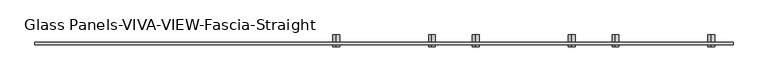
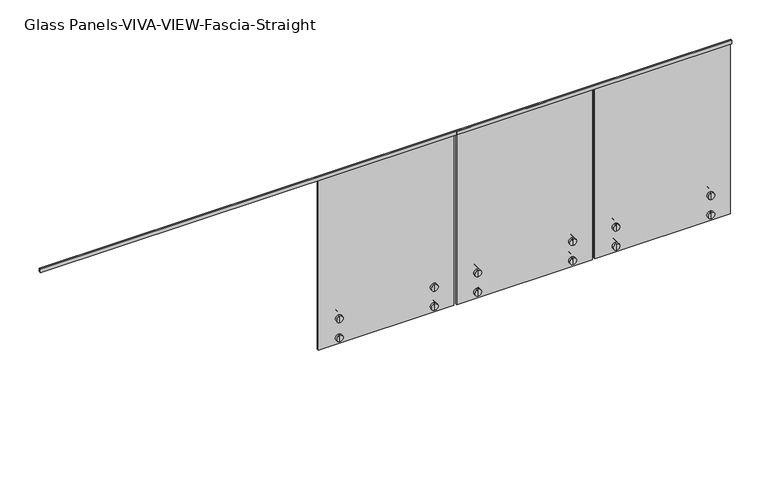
"""IFC4 building model written with IfcOpenShell, lengths in millimetres: railing geometry, Glass Panels-VIVA-VIEW-Fascia-Straight."""

from ifc_helpers import new_model, si_unit, frame, origin, place, context, project, spatial, polyline, circle_curve, outline, extrude, source, transform, mapped, element, save
from ifc_brep_helpers import plane_surface, cylinder_surface, advanced_brep


def glass_panels_viva_view_fascia_straight_ef88a36e(model_context):
    return source(origin(), model_context, "Body", "SolidModel", [
        extrude(outline(polyline([(-2588.6094585, 4140.2), (-2588.6094585, 4114.8), (-2590.1969585, 4114.8), (-2590.1969585, 4138.6125), (-2602.8969585, 4138.6125), (-2602.8969585, 4114.8), (-2604.4844585, 4114.8), (-2604.4844585, 4140.2), (-2588.6094585, 4140.2)])), frame((37756.3266433, 0.0, 0.0), z_axis=(1.0, 0.0, 0.0), x_axis=(0.0, 1.0, 0.0)), (0.0, 0.0, 1.0), 5181.6),
        advanced_brep(
        [(42064.5496899, -2620.3591646, 2794.0), (42064.5496899, -2620.3591646, 2844.8), (42064.5496899, -2620.3591646, 2819.4), (42064.5496899, -2602.8966646, 2794.0), (42064.5496899, -2602.8966646, 2844.8), (42064.5496899, -2602.8966646, 2813.685), (42064.5496899, -2602.8966646, 2825.115), (42064.5496899, -2590.1966646, 2813.685), (42064.5496899, -2590.1966646, 2825.115), (42064.5496899, -2590.1966646, 2794.0), (42064.5496899, -2590.1966646, 2844.8), (42064.5496899, -2533.0468115, 2794.0), (42064.5496899, -2533.0468115, 2844.8), (42064.5496899, -2533.0468115, 2819.4)],
        [
            (0, 1, circle_curve(frame((42064.5496899, -2620.3591646, 2819.4), z_axis=(0.0, -1.0, 0.0), x_axis=(0.0, 0.0, 1.0)), 25.4)),
            (1, 2),
            (2, 0),
            (1, 0, circle_curve(frame((42064.5496899, -2620.3591646, 2819.4), z_axis=(0.0, -1.0, 0.0), x_axis=(0.0, 0.0, 1.0)), 25.4)),
            (3, 4, circle_curve(frame((42064.5496899, -2602.8966646, 2819.4), z_axis=(0.0, -1.0, 0.0), x_axis=(0.0, 0.0, 1.0)), 25.4)),
            (4, 1),
            (0, 3),
            (4, 3, circle_curve(frame((42064.5496899, -2602.8966646, 2819.4), z_axis=(0.0, -1.0, 0.0), x_axis=(0.0, 0.0, 1.0)), 25.4)),
            (5, 6, circle_curve(frame((42064.5496899, -2602.8966646, 2819.4), z_axis=(0.0, -1.0, 0.0), x_axis=(0.0, 0.0, 1.0)), 5.715)),
            (6, 4),
            (3, 5),
            (6, 5, circle_curve(frame((42064.5496899, -2602.8966646, 2819.4), z_axis=(0.0, -1.0, 0.0), x_axis=(0.0, 0.0, 1.0)), 5.715)),
            (7, 8, circle_curve(frame((42064.5496899, -2590.1966646, 2819.4), z_axis=(0.0, -1.0, 0.0), x_axis=(0.0, 0.0, 1.0)), 5.715)),
            (8, 6),
            (5, 7),
            (8, 7, circle_curve(frame((42064.5496899, -2590.1966646, 2819.4), z_axis=(0.0, -1.0, 0.0), x_axis=(0.0, 0.0, 1.0)), 5.715)),
            (9, 10, circle_curve(frame((42064.5496899, -2590.1966646, 2819.4), z_axis=(0.0, -1.0, 0.0), x_axis=(0.0, 0.0, 1.0)), 25.4)),
            (10, 8),
            (7, 9),
            (10, 9, circle_curve(frame((42064.5496899, -2590.1966646, 2819.4), z_axis=(0.0, -1.0, 0.0), x_axis=(0.0, 0.0, 1.0)), 25.4)),
            (11, 12, circle_curve(frame((42064.5496899, -2533.0468115, 2819.4), z_axis=(0.0, -1.0, 0.0), x_axis=(0.0, 0.0, 1.0)), 25.4)),
            (12, 10),
            (9, 11),
            (12, 11, circle_curve(frame((42064.5496899, -2533.0468115, 2819.4), z_axis=(0.0, -1.0, 0.0), x_axis=(0.0, 0.0, 1.0)), 25.4)),
            (13, 12),
            (11, 13),
        ],
        [
            plane_surface(frame((42064.5496899, -2620.3591646, 2819.4), z_axis=(0.0, -1.0, 0.0), x_axis=(0.0, 0.0, 1.0))),
            cylinder_surface(frame((42064.5496899, -2688.6218115, 2819.4), z_axis=(0.0, 1.0, 0.0), x_axis=(0.0, 0.0, 1.0)), 25.4),
            plane_surface(frame((42064.5496899, -2602.8966646, 2819.4), z_axis=(0.0, 1.0, 0.0), x_axis=(0.0, 0.0, 1.0))),
            cylinder_surface(frame((42064.5496899, -2688.6218115, 2819.4), z_axis=(0.0, 1.0, 0.0), x_axis=(0.0, 0.0, 1.0)), 5.715),
            plane_surface(frame((42064.5496899, -2590.1966646, 2819.4), z_axis=(0.0, -1.0, 0.0), x_axis=(0.0, 0.0, 1.0))),
            plane_surface(frame((42064.5496899, -2533.0468115, 2819.4), z_axis=(0.0, 1.0, 0.0), x_axis=(0.0, 0.0, 1.0))),
        ],
        [
            (0, [[1, 2, 3]]),
            (0, [[4, -3, -2]]),
            (1, [[5, 6, -1, 7]]),
            (1, [[8, -7, -4, -6]]),
            (2, [[9, 10, -5, 11]]),
            (2, [[12, -11, -8, -10]]),
            (3, [[13, 14, -9, 15]]),
            (3, [[16, -15, -12, -14]]),
            (4, [[17, 18, -13, 19]]),
            (4, [[20, -19, -16, -18]]),
            (1, [[21, 22, -17, 23]]),
            (1, [[24, -23, -20, -22]]),
            (5, [[25, -21, 26]]),
            (5, [[-26, -24, -25]]),
        ],
    ),
        advanced_brep(
        [(42064.5496899, -2602.8966646, 2966.085), (42064.5496899, -2602.8966646, 2977.515), (42064.5496899, -2602.8966646, 2997.2), (42064.5496899, -2602.8966646, 2946.4), (42064.5496899, -2590.1966646, 2966.085), (42064.5496899, -2590.1966646, 2977.515), (42064.5496899, -2590.1966646, 2946.4), (42064.5496899, -2590.1966646, 2997.2), (42064.5496899, -2533.0468115, 2946.4), (42064.5496899, -2533.0468115, 2997.2), (42064.5496899, -2533.0468115, 2971.8), (42064.5496899, -2620.3591646, 2946.4), (42064.5496899, -2620.3591646, 2997.2), (42064.5496899, -2620.3591646, 2971.8)],
        [
            (0, 1, circle_curve(frame((42064.5496899, -2602.8966646, 2971.8), z_axis=(0.0, -1.0, 0.0), x_axis=(0.0, 0.0, 1.0)), 5.715)),
            (1, 2),
            (2, 3, circle_curve(frame((42064.5496899, -2602.8966646, 2971.8), z_axis=(0.0, 1.0, 0.0), x_axis=(0.0, 0.0, 1.0)), 25.4)),
            (3, 0),
            (1, 0, circle_curve(frame((42064.5496899, -2602.8966646, 2971.8), z_axis=(0.0, -1.0, 0.0), x_axis=(0.0, 0.0, 1.0)), 5.715)),
            (3, 2, circle_curve(frame((42064.5496899, -2602.8966646, 2971.8), z_axis=(0.0, 1.0, 0.0), x_axis=(0.0, 0.0, 1.0)), 25.4)),
            (4, 5, circle_curve(frame((42064.5496899, -2590.1966646, 2971.8), z_axis=(0.0, -1.0, 0.0), x_axis=(0.0, 0.0, 1.0)), 5.715)),
            (5, 1),
            (0, 4),
            (5, 4, circle_curve(frame((42064.5496899, -2590.1966646, 2971.8), z_axis=(0.0, -1.0, 0.0), x_axis=(0.0, 0.0, 1.0)), 5.715)),
            (6, 7, circle_curve(frame((42064.5496899, -2590.1966646, 2971.8), z_axis=(0.0, -1.0, 0.0), x_axis=(0.0, 0.0, 1.0)), 25.4)),
            (7, 5),
            (4, 6),
            (7, 6, circle_curve(frame((42064.5496899, -2590.1966646, 2971.8), z_axis=(0.0, -1.0, 0.0), x_axis=(0.0, 0.0, 1.0)), 25.4)),
            (8, 9, circle_curve(frame((42064.5496899, -2533.0468115, 2971.8), z_axis=(0.0, -1.0, 0.0), x_axis=(0.0, 0.0, 1.0)), 25.4)),
            (9, 7),
            (6, 8),
            (9, 8, circle_curve(frame((42064.5496899, -2533.0468115, 2971.8), z_axis=(0.0, -1.0, 0.0), x_axis=(0.0, 0.0, 1.0)), 25.4)),
            (10, 9),
            (8, 10),
            (11, 12, circle_curve(frame((42064.5496899, -2620.3591646, 2971.8), z_axis=(0.0, -1.0, 0.0), x_axis=(0.0, 0.0, 1.0)), 25.4)),
            (12, 13),
            (13, 11),
            (12, 11, circle_curve(frame((42064.5496899, -2620.3591646, 2971.8), z_axis=(0.0, -1.0, 0.0), x_axis=(0.0, 0.0, 1.0)), 25.4)),
            (2, 12),
            (11, 3),
        ],
        [
            plane_surface(frame((42064.5496899, -2602.8966646, 2971.8), z_axis=(0.0, 1.0, 0.0), x_axis=(0.0, 0.0, 1.0))),
            cylinder_surface(frame((42064.5496899, -2688.6218115, 2971.8), z_axis=(0.0, 1.0, 0.0), x_axis=(0.0, 0.0, 1.0)), 5.715),
            plane_surface(frame((42064.5496899, -2590.1966646, 2971.8), z_axis=(0.0, -1.0, 0.0), x_axis=(0.0, 0.0, 1.0))),
            cylinder_surface(frame((42064.5496899, -2688.6218115, 2971.8), z_axis=(0.0, 1.0, 0.0), x_axis=(0.0, 0.0, 1.0)), 25.4),
            plane_surface(frame((42064.5496899, -2533.0468115, 2971.8), z_axis=(0.0, 1.0, 0.0), x_axis=(0.0, 0.0, 1.0))),
            plane_surface(frame((42064.5496899, -2620.3591646, 2971.8), z_axis=(0.0, -1.0, 0.0), x_axis=(0.0, 0.0, 1.0))),
        ],
        [
            (0, [[1, 2, 3, 4]]),
            (0, [[5, -4, 6, -2]]),
            (1, [[7, 8, -1, 9]]),
            (1, [[10, -9, -5, -8]]),
            (2, [[11, 12, -7, 13]]),
            (2, [[14, -13, -10, -12]]),
            (3, [[15, 16, -11, 17]]),
            (3, [[18, -17, -14, -16]]),
            (4, [[19, -15, 20]]),
            (4, [[-20, -18, -19]]),
            (5, [[21, 22, 23]]),
            (5, [[24, -23, -22]]),
            (3, [[-3, 25, -21, 26]]),
            (3, [[-6, -26, -24, -25]]),
        ],
    ),
        advanced_brep(
        [(42775.7496899, -2620.3591646, 2794.0), (42775.7496899, -2620.3591646, 2844.8), (42775.7496899, -2620.3591646, 2819.4), (42775.7496899, -2602.8966646, 2794.0), (42775.7496899, -2602.8966646, 2844.8), (42775.7496899, -2602.8966646, 2813.685), (42775.7496899, -2602.8966646, 2825.115), (42775.7496899, -2590.1966646, 2813.685), (42775.7496899, -2590.1966646, 2825.115), (42775.7496899, -2590.1966646, 2794.0), (42775.7496899, -2590.1966646, 2844.8), (42775.7496899, -2533.0468115, 2794.0), (42775.7496899, -2533.0468115, 2844.8), (42775.7496899, -2533.0468115, 2819.4)],
        [
            (0, 1, circle_curve(frame((42775.7496899, -2620.3591646, 2819.4), z_axis=(0.0, -1.0, 0.0), x_axis=(0.0, 0.0, 1.0)), 25.4)),
            (1, 2),
            (2, 0),
            (1, 0, circle_curve(frame((42775.7496899, -2620.3591646, 2819.4), z_axis=(0.0, -1.0, 0.0), x_axis=(0.0, 0.0, 1.0)), 25.4)),
            (3, 4, circle_curve(frame((42775.7496899, -2602.8966646, 2819.4), z_axis=(0.0, -1.0, 0.0), x_axis=(0.0, 0.0, 1.0)), 25.4)),
            (4, 1),
            (0, 3),
            (4, 3, circle_curve(frame((42775.7496899, -2602.8966646, 2819.4), z_axis=(0.0, -1.0, 0.0), x_axis=(0.0, 0.0, 1.0)), 25.4)),
            (5, 6, circle_curve(frame((42775.7496899, -2602.8966646, 2819.4), z_axis=(0.0, -1.0, 0.0), x_axis=(0.0, 0.0, 1.0)), 5.715)),
            (6, 4),
            (3, 5),
            (6, 5, circle_curve(frame((42775.7496899, -2602.8966646, 2819.4), z_axis=(0.0, -1.0, 0.0), x_axis=(0.0, 0.0, 1.0)), 5.715)),
            (7, 8, circle_curve(frame((42775.7496899, -2590.1966646, 2819.4), z_axis=(0.0, -1.0, 0.0), x_axis=(0.0, 0.0, 1.0)), 5.715)),
            (8, 6),
            (5, 7),
            (8, 7, circle_curve(frame((42775.7496899, -2590.1966646, 2819.4), z_axis=(0.0, -1.0, 0.0), x_axis=(0.0, 0.0, 1.0)), 5.715)),
            (9, 10, circle_curve(frame((42775.7496899, -2590.1966646, 2819.4), z_axis=(0.0, -1.0, 0.0), x_axis=(0.0, 0.0, 1.0)), 25.4)),
            (10, 8),
            (7, 9),
            (10, 9, circle_curve(frame((42775.7496899, -2590.1966646, 2819.4), z_axis=(0.0, -1.0, 0.0), x_axis=(0.0, 0.0, 1.0)), 25.4)),
            (11, 12, circle_curve(frame((42775.7496899, -2533.0468115, 2819.4), z_axis=(0.0, -1.0, 0.0), x_axis=(0.0, 0.0, 1.0)), 25.4)),
            (12, 10),
            (9, 11),
            (12, 11, circle_curve(frame((42775.7496899, -2533.0468115, 2819.4), z_axis=(0.0, -1.0, 0.0), x_axis=(0.0, 0.0, 1.0)), 25.4)),
            (13, 12),
            (11, 13),
        ],
        [
            plane_surface(frame((42775.7496899, -2620.3591646, 2819.4), z_axis=(0.0, -1.0, 0.0), x_axis=(0.0, 0.0, 1.0))),
            cylinder_surface(frame((42775.7496899, -2688.6218115, 2819.4), z_axis=(0.0, 1.0, 0.0), x_axis=(0.0, 0.0, 1.0)), 25.4),
            plane_surface(frame((42775.7496899, -2602.8966646, 2819.4), z_axis=(0.0, 1.0, 0.0), x_axis=(0.0, 0.0, 1.0))),
            cylinder_surface(frame((42775.7496899, -2688.6218115, 2819.4), z_axis=(0.0, 1.0, 0.0), x_axis=(0.0, 0.0, 1.0)), 5.715),
            plane_surface(frame((42775.7496899, -2590.1966646, 2819.4), z_axis=(0.0, -1.0, 0.0), x_axis=(0.0, 0.0, 1.0))),
            plane_surface(frame((42775.7496899, -2533.0468115, 2819.4), z_axis=(0.0, 1.0, 0.0), x_axis=(0.0, 0.0, 1.0))),
        ],
        [
            (0, [[1, 2, 3]]),
            (0, [[4, -3, -2]]),
            (1, [[5, 6, -1, 7]]),
            (1, [[8, -7, -4, -6]]),
            (2, [[9, 10, -5, 11]]),
            (2, [[12, -11, -8, -10]]),
            (3, [[13, 14, -9, 15]]),
            (3, [[16, -15, -12, -14]]),
            (4, [[17, 18, -13, 19]]),
            (4, [[20, -19, -16, -18]]),
            (1, [[21, 22, -17, 23]]),
            (1, [[24, -23, -20, -22]]),
            (5, [[25, -21, 26]]),
            (5, [[-26, -24, -25]]),
        ],
    ),
        advanced_brep(
        [(42775.7496899, -2602.8966646, 2966.085), (42775.7496899, -2602.8966646, 2977.515), (42775.7496899, -2602.8966646, 2997.2), (42775.7496899, -2602.8966646, 2946.4), (42775.7496899, -2590.1966646, 2966.085), (42775.7496899, -2590.1966646, 2977.515), (42775.7496899, -2590.1966646, 2946.4), (42775.7496899, -2590.1966646, 2997.2), (42775.7496899, -2533.0468115, 2946.4), (42775.7496899, -2533.0468115, 2997.2), (42775.7496899, -2533.0468115, 2971.8), (42775.7496899, -2620.3591646, 2946.4), (42775.7496899, -2620.3591646, 2997.2), (42775.7496899, -2620.3591646, 2971.8)],
        [
            (0, 1, circle_curve(frame((42775.7496899, -2602.8966646, 2971.8), z_axis=(0.0, -1.0, 0.0), x_axis=(0.0, 0.0, 1.0)), 5.715)),
            (1, 2),
            (2, 3, circle_curve(frame((42775.7496899, -2602.8966646, 2971.8), z_axis=(0.0, 1.0, 0.0), x_axis=(0.0, 0.0, 1.0)), 25.4)),
            (3, 0),
            (1, 0, circle_curve(frame((42775.7496899, -2602.8966646, 2971.8), z_axis=(0.0, -1.0, 0.0), x_axis=(0.0, 0.0, 1.0)), 5.715)),
            (3, 2, circle_curve(frame((42775.7496899, -2602.8966646, 2971.8), z_axis=(0.0, 1.0, 0.0), x_axis=(0.0, 0.0, 1.0)), 25.4)),
            (4, 5, circle_curve(frame((42775.7496899, -2590.1966646, 2971.8), z_axis=(0.0, -1.0, 0.0), x_axis=(0.0, 0.0, 1.0)), 5.715)),
            (5, 1),
            (0, 4),
            (5, 4, circle_curve(frame((42775.7496899, -2590.1966646, 2971.8), z_axis=(0.0, -1.0, 0.0), x_axis=(0.0, 0.0, 1.0)), 5.715)),
            (6, 7, circle_curve(frame((42775.7496899, -2590.1966646, 2971.8), z_axis=(0.0, -1.0, 0.0), x_axis=(0.0, 0.0, 1.0)), 25.4)),
            (7, 5),
            (4, 6),
            (7, 6, circle_curve(frame((42775.7496899, -2590.1966646, 2971.8), z_axis=(0.0, -1.0, 0.0), x_axis=(0.0, 0.0, 1.0)), 25.4)),
            (8, 9, circle_curve(frame((42775.7496899, -2533.0468115, 2971.8), z_axis=(0.0, -1.0, 0.0), x_axis=(0.0, 0.0, 1.0)), 25.4)),
            (9, 7),
            (6, 8),
            (9, 8, circle_curve(frame((42775.7496899, -2533.0468115, 2971.8), z_axis=(0.0, -1.0, 0.0), x_axis=(0.0, 0.0, 1.0)), 25.4)),
            (10, 9),
            (8, 10),
            (11, 12, circle_curve(frame((42775.7496899, -2620.3591646, 2971.8), z_axis=(0.0, -1.0, 0.0), x_axis=(0.0, 0.0, 1.0)), 25.4)),
            (12, 13),
            (13, 11),
            (12, 11, circle_curve(frame((42775.7496899, -2620.3591646, 2971.8), z_axis=(0.0, -1.0, 0.0), x_axis=(0.0, 0.0, 1.0)), 25.4)),
            (2, 12),
            (11, 3),
        ],
        [
            plane_surface(frame((42775.7496899, -2602.8966646, 2971.8), z_axis=(0.0, 1.0, 0.0), x_axis=(0.0, 0.0, 1.0))),
            cylinder_surface(frame((42775.7496899, -2688.6218115, 2971.8), z_axis=(0.0, 1.0, 0.0), x_axis=(0.0, 0.0, 1.0)), 5.715),
            plane_surface(frame((42775.7496899, -2590.1966646, 2971.8), z_axis=(0.0, -1.0, 0.0), x_axis=(0.0, 0.0, 1.0))),
            cylinder_surface(frame((42775.7496899, -2688.6218115, 2971.8), z_axis=(0.0, 1.0, 0.0), x_axis=(0.0, 0.0, 1.0)), 25.4),
            plane_surface(frame((42775.7496899, -2533.0468115, 2971.8), z_axis=(0.0, 1.0, 0.0), x_axis=(0.0, 0.0, 1.0))),
            plane_surface(frame((42775.7496899, -2620.3591646, 2971.8), z_axis=(0.0, -1.0, 0.0), x_axis=(0.0, 0.0, 1.0))),
        ],
        [
            (0, [[1, 2, 3, 4]]),
            (0, [[5, -4, 6, -2]]),
            (1, [[7, 8, -1, 9]]),
            (1, [[10, -9, -5, -8]]),
            (2, [[11, 12, -7, 13]]),
            (2, [[14, -13, -10, -12]]),
            (3, [[15, 16, -11, 17]]),
            (3, [[18, -17, -14, -16]]),
            (4, [[19, -15, 20]]),
            (4, [[-20, -18, -19]]),
            (5, [[21, 22, 23]]),
            (5, [[24, -23, -22]]),
            (3, [[-3, 25, -21, 26]]),
            (3, [[-6, -26, -24, -25]]),
        ],
    ),
        extrude(outline(polyline([(41912.1496899, -2590.1969585), (42928.1496899, -2590.1969585), (42928.1496899, -2602.8969585), (41912.1496899, -2602.8969585), (41912.1496899, -2590.1969585)])), frame((0.0, 0.0, 2768.6), z_axis=(0.0, 0.0, 1.0), x_axis=(1.0, 0.0, 0.0)), (0.0, 0.0, 1.0), 1370.0125),
        advanced_brep(
        [(41028.2296899, -2620.3591646, 2794.0), (41028.2296899, -2620.3591646, 2844.8), (41028.2296899, -2620.3591646, 2819.4), (41028.2296899, -2602.8966646, 2794.0), (41028.2296899, -2602.8966646, 2844.8), (41028.2296899, -2602.8966646, 2813.685), (41028.2296899, -2602.8966646, 2825.115), (41028.2296899, -2590.1966646, 2813.685), (41028.2296899, -2590.1966646, 2825.115), (41028.2296899, -2590.1966646, 2794.0), (41028.2296899, -2590.1966646, 2844.8), (41028.2296899, -2533.0468115, 2794.0), (41028.2296899, -2533.0468115, 2844.8), (41028.2296899, -2533.0468115, 2819.4)],
        [
            (0, 1, circle_curve(frame((41028.2296899, -2620.3591646, 2819.4), z_axis=(0.0, -1.0, 0.0), x_axis=(0.0, 0.0, 1.0)), 25.4)),
            (1, 2),
            (2, 0),
            (1, 0, circle_curve(frame((41028.2296899, -2620.3591646, 2819.4), z_axis=(0.0, -1.0, 0.0), x_axis=(0.0, 0.0, 1.0)), 25.4)),
            (3, 4, circle_curve(frame((41028.2296899, -2602.8966646, 2819.4), z_axis=(0.0, -1.0, 0.0), x_axis=(0.0, 0.0, 1.0)), 25.4)),
            (4, 1),
            (0, 3),
            (4, 3, circle_curve(frame((41028.2296899, -2602.8966646, 2819.4), z_axis=(0.0, -1.0, 0.0), x_axis=(0.0, 0.0, 1.0)), 25.4)),
            (5, 6, circle_curve(frame((41028.2296899, -2602.8966646, 2819.4), z_axis=(0.0, -1.0, 0.0), x_axis=(0.0, 0.0, 1.0)), 5.715)),
            (6, 4),
            (3, 5),
            (6, 5, circle_curve(frame((41028.2296899, -2602.8966646, 2819.4), z_axis=(0.0, -1.0, 0.0), x_axis=(0.0, 0.0, 1.0)), 5.715)),
            (7, 8, circle_curve(frame((41028.2296899, -2590.1966646, 2819.4), z_axis=(0.0, -1.0, 0.0), x_axis=(0.0, 0.0, 1.0)), 5.715)),
            (8, 6),
            (5, 7),
            (8, 7, circle_curve(frame((41028.2296899, -2590.1966646, 2819.4), z_axis=(0.0, -1.0, 0.0), x_axis=(0.0, 0.0, 1.0)), 5.715)),
            (9, 10, circle_curve(frame((41028.2296899, -2590.1966646, 2819.4), z_axis=(0.0, -1.0, 0.0), x_axis=(0.0, 0.0, 1.0)), 25.4)),
            (10, 8),
            (7, 9),
            (10, 9, circle_curve(frame((41028.2296899, -2590.1966646, 2819.4), z_axis=(0.0, -1.0, 0.0), x_axis=(0.0, 0.0, 1.0)), 25.4)),
            (11, 12, circle_curve(frame((41028.2296899, -2533.0468115, 2819.4), z_axis=(0.0, -1.0, 0.0), x_axis=(0.0, 0.0, 1.0)), 25.4)),
            (12, 10),
            (9, 11),
            (12, 11, circle_curve(frame((41028.2296899, -2533.0468115, 2819.4), z_axis=(0.0, -1.0, 0.0), x_axis=(0.0, 0.0, 1.0)), 25.4)),
            (13, 12),
            (11, 13),
        ],
        [
            plane_surface(frame((41028.2296899, -2620.3591646, 2819.4), z_axis=(0.0, -1.0, 0.0), x_axis=(0.0, 0.0, 1.0))),
            cylinder_surface(frame((41028.2296899, -2688.6218115, 2819.4), z_axis=(0.0, 1.0, 0.0), x_axis=(0.0, 0.0, 1.0)), 25.4),
            plane_surface(frame((41028.2296899, -2602.8966646, 2819.4), z_axis=(0.0, 1.0, 0.0), x_axis=(0.0, 0.0, 1.0))),
            cylinder_surface(frame((41028.2296899, -2688.6218115, 2819.4), z_axis=(0.0, 1.0, 0.0), x_axis=(0.0, 0.0, 1.0)), 5.715),
            plane_surface(frame((41028.2296899, -2590.1966646, 2819.4), z_axis=(0.0, -1.0, 0.0), x_axis=(0.0, 0.0, 1.0))),
            plane_surface(frame((41028.2296899, -2533.0468115, 2819.4), z_axis=(0.0, 1.0, 0.0), x_axis=(0.0, 0.0, 1.0))),
        ],
        [
            (0, [[1, 2, 3]]),
            (0, [[4, -3, -2]]),
            (1, [[5, 6, -1, 7]]),
            (1, [[8, -7, -4, -6]]),
            (2, [[9, 10, -5, 11]]),
            (2, [[12, -11, -8, -10]]),
            (3, [[13, 14, -9, 15]]),
            (3, [[16, -15, -12, -14]]),
            (4, [[17, 18, -13, 19]]),
            (4, [[20, -19, -16, -18]]),
            (1, [[21, 22, -17, 23]]),
            (1, [[24, -23, -20, -22]]),
            (5, [[25, -21, 26]]),
            (5, [[-26, -24, -25]]),
        ],
    ),
        advanced_brep(
        [(41028.2296899, -2602.8966646, 2966.085), (41028.2296899, -2602.8966646, 2977.515), (41028.2296899, -2602.8966646, 2997.2), (41028.2296899, -2602.8966646, 2946.4), (41028.2296899, -2590.1966646, 2966.085), (41028.2296899, -2590.1966646, 2977.515), (41028.2296899, -2590.1966646, 2946.4), (41028.2296899, -2590.1966646, 2997.2), (41028.2296899, -2533.0468115, 2946.4), (41028.2296899, -2533.0468115, 2997.2), (41028.2296899, -2533.0468115, 2971.8), (41028.2296899, -2620.3591646, 2946.4), (41028.2296899, -2620.3591646, 2997.2), (41028.2296899, -2620.3591646, 2971.8)],
        [
            (0, 1, circle_curve(frame((41028.2296899, -2602.8966646, 2971.8), z_axis=(0.0, -1.0, 0.0), x_axis=(0.0, 0.0, 1.0)), 5.715)),
            (1, 2),
            (2, 3, circle_curve(frame((41028.2296899, -2602.8966646, 2971.8), z_axis=(0.0, 1.0, 0.0), x_axis=(0.0, 0.0, 1.0)), 25.4)),
            (3, 0),
            (1, 0, circle_curve(frame((41028.2296899, -2602.8966646, 2971.8), z_axis=(0.0, -1.0, 0.0), x_axis=(0.0, 0.0, 1.0)), 5.715)),
            (3, 2, circle_curve(frame((41028.2296899, -2602.8966646, 2971.8), z_axis=(0.0, 1.0, 0.0), x_axis=(0.0, 0.0, 1.0)), 25.4)),
            (4, 5, circle_curve(frame((41028.2296899, -2590.1966646, 2971.8), z_axis=(0.0, -1.0, 0.0), x_axis=(0.0, 0.0, 1.0)), 5.715)),
            (5, 1),
            (0, 4),
            (5, 4, circle_curve(frame((41028.2296899, -2590.1966646, 2971.8), z_axis=(0.0, -1.0, 0.0), x_axis=(0.0, 0.0, 1.0)), 5.715)),
            (6, 7, circle_curve(frame((41028.2296899, -2590.1966646, 2971.8), z_axis=(0.0, -1.0, 0.0), x_axis=(0.0, 0.0, 1.0)), 25.4)),
            (7, 5),
            (4, 6),
            (7, 6, circle_curve(frame((41028.2296899, -2590.1966646, 2971.8), z_axis=(0.0, -1.0, 0.0), x_axis=(0.0, 0.0, 1.0)), 25.4)),
            (8, 9, circle_curve(frame((41028.2296899, -2533.0468115, 2971.8), z_axis=(0.0, -1.0, 0.0), x_axis=(0.0, 0.0, 1.0)), 25.4)),
            (9, 7),
            (6, 8),
            (9, 8, circle_curve(frame((41028.2296899, -2533.0468115, 2971.8), z_axis=(0.0, -1.0, 0.0), x_axis=(0.0, 0.0, 1.0)), 25.4)),
            (10, 9),
            (8, 10),
            (11, 12, circle_curve(frame((41028.2296899, -2620.3591646, 2971.8), z_axis=(0.0, -1.0, 0.0), x_axis=(0.0, 0.0, 1.0)), 25.4)),
            (12, 13),
            (13, 11),
            (12, 11, circle_curve(frame((41028.2296899, -2620.3591646, 2971.8), z_axis=(0.0, -1.0, 0.0), x_axis=(0.0, 0.0, 1.0)), 25.4)),
            (2, 12),
            (11, 3),
        ],
        [
            plane_surface(frame((41028.2296899, -2602.8966646, 2971.8), z_axis=(0.0, 1.0, 0.0), x_axis=(0.0, 0.0, 1.0))),
            cylinder_surface(frame((41028.2296899, -2688.6218115, 2971.8), z_axis=(0.0, 1.0, 0.0), x_axis=(0.0, 0.0, 1.0)), 5.715),
            plane_surface(frame((41028.2296899, -2590.1966646, 2971.8), z_axis=(0.0, -1.0, 0.0), x_axis=(0.0, 0.0, 1.0))),
            cylinder_surface(frame((41028.2296899, -2688.6218115, 2971.8), z_axis=(0.0, 1.0, 0.0), x_axis=(0.0, 0.0, 1.0)), 25.4),
            plane_surface(frame((41028.2296899, -2533.0468115, 2971.8), z_axis=(0.0, 1.0, 0.0), x_axis=(0.0, 0.0, 1.0))),
            plane_surface(frame((41028.2296899, -2620.3591646, 2971.8), z_axis=(0.0, -1.0, 0.0), x_axis=(0.0, 0.0, 1.0))),
        ],
        [
            (0, [[1, 2, 3, 4]]),
            (0, [[5, -4, 6, -2]]),
            (1, [[7, 8, -1, 9]]),
            (1, [[10, -9, -5, -8]]),
            (2, [[11, 12, -7, 13]]),
            (2, [[14, -13, -10, -12]]),
            (3, [[15, 16, -11, 17]]),
            (3, [[18, -17, -14, -16]]),
            (4, [[19, -15, 20]]),
            (4, [[-20, -18, -19]]),
            (5, [[21, 22, 23]]),
            (5, [[24, -23, -22]]),
            (3, [[-3, 25, -21, 26]]),
            (3, [[-6, -26, -24, -25]]),
        ],
    ),
        advanced_brep(
        [(41739.4296899, -2620.3591646, 2794.0), (41739.4296899, -2620.3591646, 2844.8), (41739.4296899, -2620.3591646, 2819.4), (41739.4296899, -2602.8966646, 2794.0), (41739.4296899, -2602.8966646, 2844.8), (41739.4296899, -2602.8966646, 2813.685), (41739.4296899, -2602.8966646, 2825.115), (41739.4296899, -2590.1966646, 2813.685), (41739.4296899, -2590.1966646, 2825.115), (41739.4296899, -2590.1966646, 2794.0), (41739.4296899, -2590.1966646, 2844.8), (41739.4296899, -2533.0468115, 2794.0), (41739.4296899, -2533.0468115, 2844.8), (41739.4296899, -2533.0468115, 2819.4)],
        [
            (0, 1, circle_curve(frame((41739.4296899, -2620.3591646, 2819.4), z_axis=(0.0, -1.0, 0.0), x_axis=(0.0, 0.0, 1.0)), 25.4)),
            (1, 2),
            (2, 0),
            (1, 0, circle_curve(frame((41739.4296899, -2620.3591646, 2819.4), z_axis=(0.0, -1.0, 0.0), x_axis=(0.0, 0.0, 1.0)), 25.4)),
            (3, 4, circle_curve(frame((41739.4296899, -2602.8966646, 2819.4), z_axis=(0.0, -1.0, 0.0), x_axis=(0.0, 0.0, 1.0)), 25.4)),
            (4, 1),
            (0, 3),
            (4, 3, circle_curve(frame((41739.4296899, -2602.8966646, 2819.4), z_axis=(0.0, -1.0, 0.0), x_axis=(0.0, 0.0, 1.0)), 25.4)),
            (5, 6, circle_curve(frame((41739.4296899, -2602.8966646, 2819.4), z_axis=(0.0, -1.0, 0.0), x_axis=(0.0, 0.0, 1.0)), 5.715)),
            (6, 4),
            (3, 5),
            (6, 5, circle_curve(frame((41739.4296899, -2602.8966646, 2819.4), z_axis=(0.0, -1.0, 0.0), x_axis=(0.0, 0.0, 1.0)), 5.715)),
            (7, 8, circle_curve(frame((41739.4296899, -2590.1966646, 2819.4), z_axis=(0.0, -1.0, 0.0), x_axis=(0.0, 0.0, 1.0)), 5.715)),
            (8, 6),
            (5, 7),
            (8, 7, circle_curve(frame((41739.4296899, -2590.1966646, 2819.4), z_axis=(0.0, -1.0, 0.0), x_axis=(0.0, 0.0, 1.0)), 5.715)),
            (9, 10, circle_curve(frame((41739.4296899, -2590.1966646, 2819.4), z_axis=(0.0, -1.0, 0.0), x_axis=(0.0, 0.0, 1.0)), 25.4)),
            (10, 8),
            (7, 9),
            (10, 9, circle_curve(frame((41739.4296899, -2590.1966646, 2819.4), z_axis=(0.0, -1.0, 0.0), x_axis=(0.0, 0.0, 1.0)), 25.4)),
            (11, 12, circle_curve(frame((41739.4296899, -2533.0468115, 2819.4), z_axis=(0.0, -1.0, 0.0), x_axis=(0.0, 0.0, 1.0)), 25.4)),
            (12, 10),
            (9, 11),
            (12, 11, circle_curve(frame((41739.4296899, -2533.0468115, 2819.4), z_axis=(0.0, -1.0, 0.0), x_axis=(0.0, 0.0, 1.0)), 25.4)),
            (13, 12),
            (11, 13),
        ],
        [
            plane_surface(frame((41739.4296899, -2620.3591646, 2819.4), z_axis=(0.0, -1.0, 0.0), x_axis=(0.0, 0.0, 1.0))),
            cylinder_surface(frame((41739.4296899, -2688.6218115, 2819.4), z_axis=(0.0, 1.0, 0.0), x_axis=(0.0, 0.0, 1.0)), 25.4),
            plane_surface(frame((41739.4296899, -2602.8966646, 2819.4), z_axis=(0.0, 1.0, 0.0), x_axis=(0.0, 0.0, 1.0))),
            cylinder_surface(frame((41739.4296899, -2688.6218115, 2819.4), z_axis=(0.0, 1.0, 0.0), x_axis=(0.0, 0.0, 1.0)), 5.715),
            plane_surface(frame((41739.4296899, -2590.1966646, 2819.4), z_axis=(0.0, -1.0, 0.0), x_axis=(0.0, 0.0, 1.0))),
            plane_surface(frame((41739.4296899, -2533.0468115, 2819.4), z_axis=(0.0, 1.0, 0.0), x_axis=(0.0, 0.0, 1.0))),
        ],
        [
            (0, [[1, 2, 3]]),
            (0, [[4, -3, -2]]),
            (1, [[5, 6, -1, 7]]),
            (1, [[8, -7, -4, -6]]),
            (2, [[9, 10, -5, 11]]),
            (2, [[12, -11, -8, -10]]),
            (3, [[13, 14, -9, 15]]),
            (3, [[16, -15, -12, -14]]),
            (4, [[17, 18, -13, 19]]),
            (4, [[20, -19, -16, -18]]),
            (1, [[21, 22, -17, 23]]),
            (1, [[24, -23, -20, -22]]),
            (5, [[25, -21, 26]]),
            (5, [[-26, -24, -25]]),
        ],
    ),
        advanced_brep(
        [(41739.4296899, -2602.8966646, 2966.085), (41739.4296899, -2602.8966646, 2977.515), (41739.4296899, -2602.8966646, 2997.2), (41739.4296899, -2602.8966646, 2946.4), (41739.4296899, -2590.1966646, 2966.085), (41739.4296899, -2590.1966646, 2977.515), (41739.4296899, -2590.1966646, 2946.4), (41739.4296899, -2590.1966646, 2997.2), (41739.4296899, -2533.0468115, 2946.4), (41739.4296899, -2533.0468115, 2997.2), (41739.4296899, -2533.0468115, 2971.8), (41739.4296899, -2620.3591646, 2946.4), (41739.4296899, -2620.3591646, 2997.2), (41739.4296899, -2620.3591646, 2971.8)],
        [
            (0, 1, circle_curve(frame((41739.4296899, -2602.8966646, 2971.8), z_axis=(0.0, -1.0, 0.0), x_axis=(0.0, 0.0, 1.0)), 5.715)),
            (1, 2),
            (2, 3, circle_curve(frame((41739.4296899, -2602.8966646, 2971.8), z_axis=(0.0, 1.0, 0.0), x_axis=(0.0, 0.0, 1.0)), 25.4)),
            (3, 0),
            (1, 0, circle_curve(frame((41739.4296899, -2602.8966646, 2971.8), z_axis=(0.0, -1.0, 0.0), x_axis=(0.0, 0.0, 1.0)), 5.715)),
            (3, 2, circle_curve(frame((41739.4296899, -2602.8966646, 2971.8), z_axis=(0.0, 1.0, 0.0), x_axis=(0.0, 0.0, 1.0)), 25.4)),
            (4, 5, circle_curve(frame((41739.4296899, -2590.1966646, 2971.8), z_axis=(0.0, -1.0, 0.0), x_axis=(0.0, 0.0, 1.0)), 5.715)),
            (5, 1),
            (0, 4),
            (5, 4, circle_curve(frame((41739.4296899, -2590.1966646, 2971.8), z_axis=(0.0, -1.0, 0.0), x_axis=(0.0, 0.0, 1.0)), 5.715)),
            (6, 7, circle_curve(frame((41739.4296899, -2590.1966646, 2971.8), z_axis=(0.0, -1.0, 0.0), x_axis=(0.0, 0.0, 1.0)), 25.4)),
            (7, 5),
            (4, 6),
            (7, 6, circle_curve(frame((41739.4296899, -2590.1966646, 2971.8), z_axis=(0.0, -1.0, 0.0), x_axis=(0.0, 0.0, 1.0)), 25.4)),
            (8, 9, circle_curve(frame((41739.4296899, -2533.0468115, 2971.8), z_axis=(0.0, -1.0, 0.0), x_axis=(0.0, 0.0, 1.0)), 25.4)),
            (9, 7),
            (6, 8),
            (9, 8, circle_curve(frame((41739.4296899, -2533.0468115, 2971.8), z_axis=(0.0, -1.0, 0.0), x_axis=(0.0, 0.0, 1.0)), 25.4)),
            (10, 9),
            (8, 10),
            (11, 12, circle_curve(frame((41739.4296899, -2620.3591646, 2971.8), z_axis=(0.0, -1.0, 0.0), x_axis=(0.0, 0.0, 1.0)), 25.4)),
            (12, 13),
            (13, 11),
            (12, 11, circle_curve(frame((41739.4296899, -2620.3591646, 2971.8), z_axis=(0.0, -1.0, 0.0), x_axis=(0.0, 0.0, 1.0)), 25.4)),
            (2, 12),
            (11, 3),
        ],
        [
            plane_surface(frame((41739.4296899, -2602.8966646, 2971.8), z_axis=(0.0, 1.0, 0.0), x_axis=(0.0, 0.0, 1.0))),
            cylinder_surface(frame((41739.4296899, -2688.6218115, 2971.8), z_axis=(0.0, 1.0, 0.0), x_axis=(0.0, 0.0, 1.0)), 5.715),
            plane_surface(frame((41739.4296899, -2590.1966646, 2971.8), z_axis=(0.0, -1.0, 0.0), x_axis=(0.0, 0.0, 1.0))),
            cylinder_surface(frame((41739.4296899, -2688.6218115, 2971.8), z_axis=(0.0, 1.0, 0.0), x_axis=(0.0, 0.0, 1.0)), 25.4),
            plane_surface(frame((41739.4296899, -2533.0468115, 2971.8), z_axis=(0.0, 1.0, 0.0), x_axis=(0.0, 0.0, 1.0))),
            plane_surface(frame((41739.4296899, -2620.3591646, 2971.8), z_axis=(0.0, -1.0, 0.0), x_axis=(0.0, 0.0, 1.0))),
        ],
        [
            (0, [[1, 2, 3, 4]]),
            (0, [[5, -4, 6, -2]]),
            (1, [[7, 8, -1, 9]]),
            (1, [[10, -9, -5, -8]]),
            (2, [[11, 12, -7, 13]]),
            (2, [[14, -13, -10, -12]]),
            (3, [[15, 16, -11, 17]]),
            (3, [[18, -17, -14, -16]]),
            (4, [[19, -15, 20]]),
            (4, [[-20, -18, -19]]),
            (5, [[21, 22, 23]]),
            (5, [[24, -23, -22]]),
            (3, [[-3, 25, -21, 26]]),
            (3, [[-6, -26, -24, -25]]),
        ],
    ),
        extrude(outline(polyline([(40875.8296899, -2590.1969585), (41891.8296899, -2590.1969585), (41891.8296899, -2602.8969585), (40875.8296899, -2602.8969585), (40875.8296899, -2590.1969585)])), frame((0.0, 0.0, 2768.6), z_axis=(0.0, 0.0, 1.0), x_axis=(1.0, 0.0, 0.0)), (0.0, 0.0, 1.0), 1370.0125),
        advanced_brep(
        [(39991.9096899, -2620.3591646, 2794.0), (39991.9096899, -2620.3591646, 2844.8), (39991.9096899, -2620.3591646, 2819.4), (39991.9096899, -2602.8966646, 2794.0), (39991.9096899, -2602.8966646, 2844.8), (39991.9096899, -2602.8966646, 2813.685), (39991.9096899, -2602.8966646, 2825.115), (39991.9096899, -2590.1966646, 2813.685), (39991.9096899, -2590.1966646, 2825.115), (39991.9096899, -2590.1966646, 2794.0), (39991.9096899, -2590.1966646, 2844.8), (39991.9096899, -2533.0468115, 2794.0), (39991.9096899, -2533.0468115, 2844.8), (39991.9096899, -2533.0468115, 2819.4)],
        [
            (0, 1, circle_curve(frame((39991.9096899, -2620.3591646, 2819.4), z_axis=(0.0, -1.0, 0.0), x_axis=(0.0, 0.0, 1.0)), 25.4)),
            (1, 2),
            (2, 0),
            (1, 0, circle_curve(frame((39991.9096899, -2620.3591646, 2819.4), z_axis=(0.0, -1.0, 0.0), x_axis=(0.0, 0.0, 1.0)), 25.4)),
            (3, 4, circle_curve(frame((39991.9096899, -2602.8966646, 2819.4), z_axis=(0.0, -1.0, 0.0), x_axis=(0.0, 0.0, 1.0)), 25.4)),
            (4, 1),
            (0, 3),
            (4, 3, circle_curve(frame((39991.9096899, -2602.8966646, 2819.4), z_axis=(0.0, -1.0, 0.0), x_axis=(0.0, 0.0, 1.0)), 25.4)),
            (5, 6, circle_curve(frame((39991.9096899, -2602.8966646, 2819.4), z_axis=(0.0, -1.0, 0.0), x_axis=(0.0, 0.0, 1.0)), 5.715)),
            (6, 4),
            (3, 5),
            (6, 5, circle_curve(frame((39991.9096899, -2602.8966646, 2819.4), z_axis=(0.0, -1.0, 0.0), x_axis=(0.0, 0.0, 1.0)), 5.715)),
            (7, 8, circle_curve(frame((39991.9096899, -2590.1966646, 2819.4), z_axis=(0.0, -1.0, 0.0), x_axis=(0.0, 0.0, 1.0)), 5.715)),
            (8, 6),
            (5, 7),
            (8, 7, circle_curve(frame((39991.9096899, -2590.1966646, 2819.4), z_axis=(0.0, -1.0, 0.0), x_axis=(0.0, 0.0, 1.0)), 5.715)),
            (9, 10, circle_curve(frame((39991.9096899, -2590.1966646, 2819.4), z_axis=(0.0, -1.0, 0.0), x_axis=(0.0, 0.0, 1.0)), 25.4)),
            (10, 8),
            (7, 9),
            (10, 9, circle_curve(frame((39991.9096899, -2590.1966646, 2819.4), z_axis=(0.0, -1.0, 0.0), x_axis=(0.0, 0.0, 1.0)), 25.4)),
            (11, 12, circle_curve(frame((39991.9096899, -2533.0468115, 2819.4), z_axis=(0.0, -1.0, 0.0), x_axis=(0.0, 0.0, 1.0)), 25.4)),
            (12, 10),
            (9, 11),
            (12, 11, circle_curve(frame((39991.9096899, -2533.0468115, 2819.4), z_axis=(0.0, -1.0, 0.0), x_axis=(0.0, 0.0, 1.0)), 25.4)),
            (13, 12),
            (11, 13),
        ],
        [
            plane_surface(frame((39991.9096899, -2620.3591646, 2819.4), z_axis=(0.0, -1.0, 0.0), x_axis=(0.0, 0.0, 1.0))),
            cylinder_surface(frame((39991.9096899, -2688.6218115, 2819.4), z_axis=(0.0, 1.0, 0.0), x_axis=(0.0, 0.0, 1.0)), 25.4),
            plane_surface(frame((39991.9096899, -2602.8966646, 2819.4), z_axis=(0.0, 1.0, 0.0), x_axis=(0.0, 0.0, 1.0))),
            cylinder_surface(frame((39991.9096899, -2688.6218115, 2819.4), z_axis=(0.0, 1.0, 0.0), x_axis=(0.0, 0.0, 1.0)), 5.715),
            plane_surface(frame((39991.9096899, -2590.1966646, 2819.4), z_axis=(0.0, -1.0, 0.0), x_axis=(0.0, 0.0, 1.0))),
            plane_surface(frame((39991.9096899, -2533.0468115, 2819.4), z_axis=(0.0, 1.0, 0.0), x_axis=(0.0, 0.0, 1.0))),
        ],
        [
            (0, [[1, 2, 3]]),
            (0, [[4, -3, -2]]),
            (1, [[5, 6, -1, 7]]),
            (1, [[8, -7, -4, -6]]),
            (2, [[9, 10, -5, 11]]),
            (2, [[12, -11, -8, -10]]),
            (3, [[13, 14, -9, 15]]),
            (3, [[16, -15, -12, -14]]),
            (4, [[17, 18, -13, 19]]),
            (4, [[20, -19, -16, -18]]),
            (1, [[21, 22, -17, 23]]),
            (1, [[24, -23, -20, -22]]),
            (5, [[25, -21, 26]]),
            (5, [[-26, -24, -25]]),
        ],
    ),
        advanced_brep(
        [(39991.9096899, -2602.8966646, 2966.085), (39991.9096899, -2602.8966646, 2977.515), (39991.9096899, -2602.8966646, 2997.2), (39991.9096899, -2602.8966646, 2946.4), (39991.9096899, -2590.1966646, 2966.085), (39991.9096899, -2590.1966646, 2977.515), (39991.9096899, -2590.1966646, 2946.4), (39991.9096899, -2590.1966646, 2997.2), (39991.9096899, -2533.0468115, 2946.4), (39991.9096899, -2533.0468115, 2997.2), (39991.9096899, -2533.0468115, 2971.8), (39991.9096899, -2620.3591646, 2946.4), (39991.9096899, -2620.3591646, 2997.2), (39991.9096899, -2620.3591646, 2971.8)],
        [
            (0, 1, circle_curve(frame((39991.9096899, -2602.8966646, 2971.8), z_axis=(0.0, -1.0, 0.0), x_axis=(0.0, 0.0, 1.0)), 5.715)),
            (1, 2),
            (2, 3, circle_curve(frame((39991.9096899, -2602.8966646, 2971.8), z_axis=(0.0, 1.0, 0.0), x_axis=(0.0, 0.0, 1.0)), 25.4)),
            (3, 0),
            (1, 0, circle_curve(frame((39991.9096899, -2602.8966646, 2971.8), z_axis=(0.0, -1.0, 0.0), x_axis=(0.0, 0.0, 1.0)), 5.715)),
            (3, 2, circle_curve(frame((39991.9096899, -2602.8966646, 2971.8), z_axis=(0.0, 1.0, 0.0), x_axis=(0.0, 0.0, 1.0)), 25.4)),
            (4, 5, circle_curve(frame((39991.9096899, -2590.1966646, 2971.8), z_axis=(0.0, -1.0, 0.0), x_axis=(0.0, 0.0, 1.0)), 5.715)),
            (5, 1),
            (0, 4),
            (5, 4, circle_curve(frame((39991.9096899, -2590.1966646, 2971.8), z_axis=(0.0, -1.0, 0.0), x_axis=(0.0, 0.0, 1.0)), 5.715)),
            (6, 7, circle_curve(frame((39991.9096899, -2590.1966646, 2971.8), z_axis=(0.0, -1.0, 0.0), x_axis=(0.0, 0.0, 1.0)), 25.4)),
            (7, 5),
            (4, 6),
            (7, 6, circle_curve(frame((39991.9096899, -2590.1966646, 2971.8), z_axis=(0.0, -1.0, 0.0), x_axis=(0.0, 0.0, 1.0)), 25.4)),
            (8, 9, circle_curve(frame((39991.9096899, -2533.0468115, 2971.8), z_axis=(0.0, -1.0, 0.0), x_axis=(0.0, 0.0, 1.0)), 25.4)),
            (9, 7),
            (6, 8),
            (9, 8, circle_curve(frame((39991.9096899, -2533.0468115, 2971.8), z_axis=(0.0, -1.0, 0.0), x_axis=(0.0, 0.0, 1.0)), 25.4)),
            (10, 9),
            (8, 10),
            (11, 12, circle_curve(frame((39991.9096899, -2620.3591646, 2971.8), z_axis=(0.0, -1.0, 0.0), x_axis=(0.0, 0.0, 1.0)), 25.4)),
            (12, 13),
            (13, 11),
            (12, 11, circle_curve(frame((39991.9096899, -2620.3591646, 2971.8), z_axis=(0.0, -1.0, 0.0), x_axis=(0.0, 0.0, 1.0)), 25.4)),
            (2, 12),
            (11, 3),
        ],
        [
            plane_surface(frame((39991.9096899, -2602.8966646, 2971.8), z_axis=(0.0, 1.0, 0.0), x_axis=(0.0, 0.0, 1.0))),
            cylinder_surface(frame((39991.9096899, -2688.6218115, 2971.8), z_axis=(0.0, 1.0, 0.0), x_axis=(0.0, 0.0, 1.0)), 5.715),
            plane_surface(frame((39991.9096899, -2590.1966646, 2971.8), z_axis=(0.0, -1.0, 0.0), x_axis=(0.0, 0.0, 1.0))),
            cylinder_surface(frame((39991.9096899, -2688.6218115, 2971.8), z_axis=(0.0, 1.0, 0.0), x_axis=(0.0, 0.0, 1.0)), 25.4),
            plane_surface(frame((39991.9096899, -2533.0468115, 2971.8), z_axis=(0.0, 1.0, 0.0), x_axis=(0.0, 0.0, 1.0))),
            plane_surface(frame((39991.9096899, -2620.3591646, 2971.8), z_axis=(0.0, -1.0, 0.0), x_axis=(0.0, 0.0, 1.0))),
        ],
        [
            (0, [[1, 2, 3, 4]]),
            (0, [[5, -4, 6, -2]]),
            (1, [[7, 8, -1, 9]]),
            (1, [[10, -9, -5, -8]]),
            (2, [[11, 12, -7, 13]]),
            (2, [[14, -13, -10, -12]]),
            (3, [[15, 16, -11, 17]]),
            (3, [[18, -17, -14, -16]]),
            (4, [[19, -15, 20]]),
            (4, [[-20, -18, -19]]),
            (5, [[21, 22, 23]]),
            (5, [[24, -23, -22]]),
            (3, [[-3, 25, -21, 26]]),
            (3, [[-6, -26, -24, -25]]),
        ],
    ),
        advanced_brep(
        [(40703.1096899, -2620.3591646, 2794.0), (40703.1096899, -2620.3591646, 2844.8), (40703.1096899, -2620.3591646, 2819.4), (40703.1096899, -2602.8966646, 2794.0), (40703.1096899, -2602.8966646, 2844.8), (40703.1096899, -2602.8966646, 2813.685), (40703.1096899, -2602.8966646, 2825.115), (40703.1096899, -2590.1966646, 2813.685), (40703.1096899, -2590.1966646, 2825.115), (40703.1096899, -2590.1966646, 2794.0), (40703.1096899, -2590.1966646, 2844.8), (40703.1096899, -2533.0468115, 2794.0), (40703.1096899, -2533.0468115, 2844.8), (40703.1096899, -2533.0468115, 2819.4)],
        [
            (0, 1, circle_curve(frame((40703.1096899, -2620.3591646, 2819.4), z_axis=(0.0, -1.0, 0.0), x_axis=(0.0, 0.0, 1.0)), 25.4)),
            (1, 2),
            (2, 0),
            (1, 0, circle_curve(frame((40703.1096899, -2620.3591646, 2819.4), z_axis=(0.0, -1.0, 0.0), x_axis=(0.0, 0.0, 1.0)), 25.4)),
            (3, 4, circle_curve(frame((40703.1096899, -2602.8966646, 2819.4), z_axis=(0.0, -1.0, 0.0), x_axis=(0.0, 0.0, 1.0)), 25.4)),
            (4, 1),
            (0, 3),
            (4, 3, circle_curve(frame((40703.1096899, -2602.8966646, 2819.4), z_axis=(0.0, -1.0, 0.0), x_axis=(0.0, 0.0, 1.0)), 25.4)),
            (5, 6, circle_curve(frame((40703.1096899, -2602.8966646, 2819.4), z_axis=(0.0, -1.0, 0.0), x_axis=(0.0, 0.0, 1.0)), 5.715)),
            (6, 4),
            (3, 5),
            (6, 5, circle_curve(frame((40703.1096899, -2602.8966646, 2819.4), z_axis=(0.0, -1.0, 0.0), x_axis=(0.0, 0.0, 1.0)), 5.715)),
            (7, 8, circle_curve(frame((40703.1096899, -2590.1966646, 2819.4), z_axis=(0.0, -1.0, 0.0), x_axis=(0.0, 0.0, 1.0)), 5.715)),
            (8, 6),
            (5, 7),
            (8, 7, circle_curve(frame((40703.1096899, -2590.1966646, 2819.4), z_axis=(0.0, -1.0, 0.0), x_axis=(0.0, 0.0, 1.0)), 5.715)),
            (9, 10, circle_curve(frame((40703.1096899, -2590.1966646, 2819.4), z_axis=(0.0, -1.0, 0.0), x_axis=(0.0, 0.0, 1.0)), 25.4)),
            (10, 8),
            (7, 9),
            (10, 9, circle_curve(frame((40703.1096899, -2590.1966646, 2819.4), z_axis=(0.0, -1.0, 0.0), x_axis=(0.0, 0.0, 1.0)), 25.4)),
            (11, 12, circle_curve(frame((40703.1096899, -2533.0468115, 2819.4), z_axis=(0.0, -1.0, 0.0), x_axis=(0.0, 0.0, 1.0)), 25.4)),
            (12, 10),
            (9, 11),
            (12, 11, circle_curve(frame((40703.1096899, -2533.0468115, 2819.4), z_axis=(0.0, -1.0, 0.0), x_axis=(0.0, 0.0, 1.0)), 25.4)),
            (13, 12),
            (11, 13),
        ],
        [
            plane_surface(frame((40703.1096899, -2620.3591646, 2819.4), z_axis=(0.0, -1.0, 0.0), x_axis=(0.0, 0.0, 1.0))),
            cylinder_surface(frame((40703.1096899, -2688.6218115, 2819.4), z_axis=(0.0, 1.0, 0.0), x_axis=(0.0, 0.0, 1.0)), 25.4),
            plane_surface(frame((40703.1096899, -2602.8966646, 2819.4), z_axis=(0.0, 1.0, 0.0), x_axis=(0.0, 0.0, 1.0))),
            cylinder_surface(frame((40703.1096899, -2688.6218115, 2819.4), z_axis=(0.0, 1.0, 0.0), x_axis=(0.0, 0.0, 1.0)), 5.715),
            plane_surface(frame((40703.1096899, -2590.1966646, 2819.4), z_axis=(0.0, -1.0, 0.0), x_axis=(0.0, 0.0, 1.0))),
            plane_surface(frame((40703.1096899, -2533.0468115, 2819.4), z_axis=(0.0, 1.0, 0.0), x_axis=(0.0, 0.0, 1.0))),
        ],
        [
            (0, [[1, 2, 3]]),
            (0, [[4, -3, -2]]),
            (1, [[5, 6, -1, 7]]),
            (1, [[8, -7, -4, -6]]),
            (2, [[9, 10, -5, 11]]),
            (2, [[12, -11, -8, -10]]),
            (3, [[13, 14, -9, 15]]),
            (3, [[16, -15, -12, -14]]),
            (4, [[17, 18, -13, 19]]),
            (4, [[20, -19, -16, -18]]),
            (1, [[21, 22, -17, 23]]),
            (1, [[24, -23, -20, -22]]),
            (5, [[25, -21, 26]]),
            (5, [[-26, -24, -25]]),
        ],
    ),
        advanced_brep(
        [(40703.1096899, -2602.8966646, 2966.085), (40703.1096899, -2602.8966646, 2977.515), (40703.1096899, -2602.8966646, 2997.2), (40703.1096899, -2602.8966646, 2946.4), (40703.1096899, -2590.1966646, 2966.085), (40703.1096899, -2590.1966646, 2977.515), (40703.1096899, -2590.1966646, 2946.4), (40703.1096899, -2590.1966646, 2997.2), (40703.1096899, -2533.0468115, 2946.4), (40703.1096899, -2533.0468115, 2997.2), (40703.1096899, -2533.0468115, 2971.8), (40703.1096899, -2620.3591646, 2946.4), (40703.1096899, -2620.3591646, 2997.2), (40703.1096899, -2620.3591646, 2971.8)],
        [
            (0, 1, circle_curve(frame((40703.1096899, -2602.8966646, 2971.8), z_axis=(0.0, -1.0, 0.0), x_axis=(0.0, 0.0, 1.0)), 5.715)),
            (1, 2),
            (2, 3, circle_curve(frame((40703.1096899, -2602.8966646, 2971.8), z_axis=(0.0, 1.0, 0.0), x_axis=(0.0, 0.0, 1.0)), 25.4)),
            (3, 0),
            (1, 0, circle_curve(frame((40703.1096899, -2602.8966646, 2971.8), z_axis=(0.0, -1.0, 0.0), x_axis=(0.0, 0.0, 1.0)), 5.715)),
            (3, 2, circle_curve(frame((40703.1096899, -2602.8966646, 2971.8), z_axis=(0.0, 1.0, 0.0), x_axis=(0.0, 0.0, 1.0)), 25.4)),
            (4, 5, circle_curve(frame((40703.1096899, -2590.1966646, 2971.8), z_axis=(0.0, -1.0, 0.0), x_axis=(0.0, 0.0, 1.0)), 5.715)),
            (5, 1),
            (0, 4),
            (5, 4, circle_curve(frame((40703.1096899, -2590.1966646, 2971.8), z_axis=(0.0, -1.0, 0.0), x_axis=(0.0, 0.0, 1.0)), 5.715)),
            (6, 7, circle_curve(frame((40703.1096899, -2590.1966646, 2971.8), z_axis=(0.0, -1.0, 0.0), x_axis=(0.0, 0.0, 1.0)), 25.4)),
            (7, 5),
            (4, 6),
            (7, 6, circle_curve(frame((40703.1096899, -2590.1966646, 2971.8), z_axis=(0.0, -1.0, 0.0), x_axis=(0.0, 0.0, 1.0)), 25.4)),
            (8, 9, circle_curve(frame((40703.1096899, -2533.0468115, 2971.8), z_axis=(0.0, -1.0, 0.0), x_axis=(0.0, 0.0, 1.0)), 25.4)),
            (9, 7),
            (6, 8),
            (9, 8, circle_curve(frame((40703.1096899, -2533.0468115, 2971.8), z_axis=(0.0, -1.0, 0.0), x_axis=(0.0, 0.0, 1.0)), 25.4)),
            (10, 9),
            (8, 10),
            (11, 12, circle_curve(frame((40703.1096899, -2620.3591646, 2971.8), z_axis=(0.0, -1.0, 0.0), x_axis=(0.0, 0.0, 1.0)), 25.4)),
            (12, 13),
            (13, 11),
            (12, 11, circle_curve(frame((40703.1096899, -2620.3591646, 2971.8), z_axis=(0.0, -1.0, 0.0), x_axis=(0.0, 0.0, 1.0)), 25.4)),
            (2, 12),
            (11, 3),
        ],
        [
            plane_surface(frame((40703.1096899, -2602.8966646, 2971.8), z_axis=(0.0, 1.0, 0.0), x_axis=(0.0, 0.0, 1.0))),
            cylinder_surface(frame((40703.1096899, -2688.6218115, 2971.8), z_axis=(0.0, 1.0, 0.0), x_axis=(0.0, 0.0, 1.0)), 5.715),
            plane_surface(frame((40703.1096899, -2590.1966646, 2971.8), z_axis=(0.0, -1.0, 0.0), x_axis=(0.0, 0.0, 1.0))),
            cylinder_surface(frame((40703.1096899, -2688.6218115, 2971.8), z_axis=(0.0, 1.0, 0.0), x_axis=(0.0, 0.0, 1.0)), 25.4),
            plane_surface(frame((40703.1096899, -2533.0468115, 2971.8), z_axis=(0.0, 1.0, 0.0), x_axis=(0.0, 0.0, 1.0))),
            plane_surface(frame((40703.1096899, -2620.3591646, 2971.8), z_axis=(0.0, -1.0, 0.0), x_axis=(0.0, 0.0, 1.0))),
        ],
        [
            (0, [[1, 2, 3, 4]]),
            (0, [[5, -4, 6, -2]]),
            (1, [[7, 8, -1, 9]]),
            (1, [[10, -9, -5, -8]]),
            (2, [[11, 12, -7, 13]]),
            (2, [[14, -13, -10, -12]]),
            (3, [[15, 16, -11, 17]]),
            (3, [[18, -17, -14, -16]]),
            (4, [[19, -15, 20]]),
            (4, [[-20, -18, -19]]),
            (5, [[21, 22, 23]]),
            (5, [[24, -23, -22]]),
            (3, [[-3, 25, -21, 26]]),
            (3, [[-6, -26, -24, -25]]),
        ],
    ),
        extrude(outline(polyline([(39839.5096899, -2590.1969585), (40855.5096899, -2590.1969585), (40855.5096899, -2602.8969585), (39839.5096899, -2602.8969585), (39839.5096899, -2590.1969585)])), frame((0.0, 0.0, 2768.6), z_axis=(0.0, 0.0, 1.0), x_axis=(1.0, 0.0, 0.0)), (0.0, 0.0, 1.0), 1370.0125),
    ])


if __name__ == "__main__":
    model = new_model("IFC4")
    model_context = context("Model", 3, world=origin())
    ifc_project = project(units=[si_unit("LENGTHUNIT", "METRE", prefix="MILLI")], contexts=[model_context])
    site = spatial("IfcSite", under=ifc_project)
    building = spatial("IfcBuilding", under=site)
    placement = place(None, origin())
    glass_panels_viva_view_fascia_straight_shape = glass_panels_viva_view_fascia_straight_ef88a36e(model_context)
    element("IfcRailing", 1, ObjectType="Glass Panels-VIVA-VIEW-Fascia-Straight", at=placement, inside=building, context=model_context, shape_type="MappedRepresentation", body=[
        mapped(glass_panels_viva_view_fascia_straight_shape, transform((0.0, 0.0, 0.0), x_axis=(1.0, 0.0, 0.0), y_axis=(0.0, 1.0, 0.0), z_axis=(0.0, 0.0, 1.0))),
    ])
    save(model, "model.ifc")
